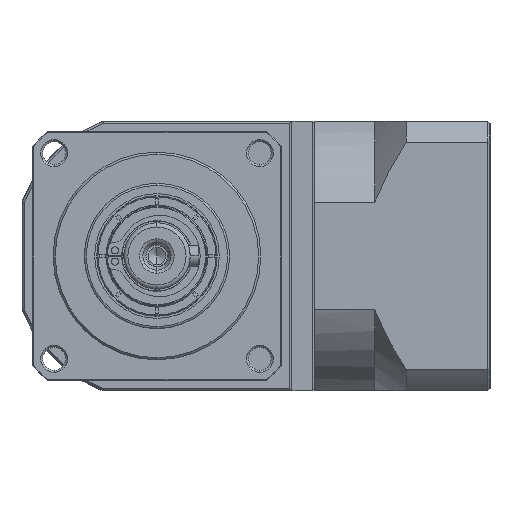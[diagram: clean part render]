
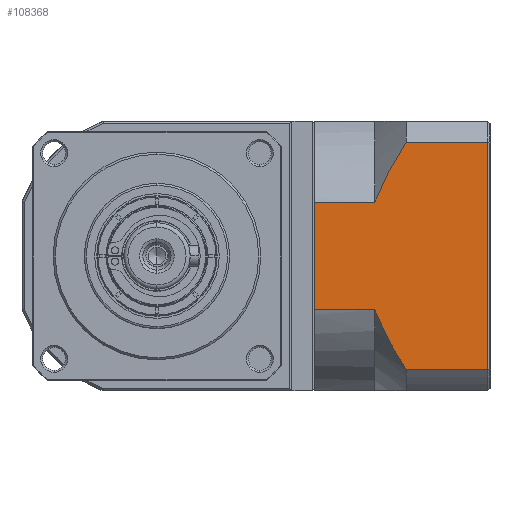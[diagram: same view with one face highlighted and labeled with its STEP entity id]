
A CAD part, left-side view. The second image highlights one B-rep face of the part: STEP entity #108368.
In plain terms, the highlighted planar face has unit normal (-1, 0, 0).
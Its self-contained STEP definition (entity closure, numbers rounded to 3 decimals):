
#5248 = B_SPLINE_CURVE_WITH_KNOTS ( 'NONE', 3,
 ( #55234, #129457, #42813, #67716, #154365, #80161, #6045, #92638, #18481, #105079 ),
 .UNSPECIFIED., .F., .F.,
 ( 4, 2, 2, 2, 4 ),
 ( 0.101, 0.103, 0.105, 0.109, 0.117 ),
 .UNSPECIFIED. ) ;
#5411 = VECTOR ( 'NONE', #45321, 1000. ) ;
#6045 = CARTESIAN_POINT ( 'NONE',  ( -16.223, -80.537, -137.2 ) ) ;
#7336 = CARTESIAN_POINT ( 'NONE',  ( -16.223, -77.791, -145.364 ) ) ;
#9704 = DIRECTION ( 'NONE',  ( 1., 0., 0. ) ) ;
#18481 = CARTESIAN_POINT ( 'NONE',  ( -16.223, -83.83, -143.095 ) ) ;
#18484 = FACE_OUTER_BOUND ( 'NONE', #99587, .T. ) ;
#19973 = CARTESIAN_POINT ( 'NONE',  ( -16.223, -85.291, -90.591 ) ) ;
#20911 = VERTEX_POINT ( 'NONE', #122552 ) ;
#25438 = CARTESIAN_POINT ( 'NONE',  ( -16.223, -82.458, -95.216 ) ) ;
#26752 = CARTESIAN_POINT ( 'NONE',  ( -16.223, -104.991, -150.478 ) ) ;
#33432 = CARTESIAN_POINT ( 'NONE',  ( -16.223, -77.791, -90.591 ) ) ;
#34030 = PLANE ( 'NONE',  #104028 ) ;
#36263 = VERTEX_POINT ( 'NONE', #19973 ) ;
#37776 = EDGE_CURVE ( 'NONE', #47898, #115737, #5248, .T. ) ;
#37871 = CARTESIAN_POINT ( 'NONE',  ( -16.223, -79.878, -99.997 ) ) ;
#41504 = CARTESIAN_POINT ( 'NONE',  ( -16.223, -104.991, -145.364 ) ) ;
#42128 = ORIENTED_EDGE ( 'NONE', *, *, #63865, .F. ) ;
#42577 = VECTOR ( 'NONE', #60832, 1000. ) ;
#42813 = CARTESIAN_POINT ( 'NONE',  ( -16.223, -78.282, -132.249 ) ) ;
#44585 = CARTESIAN_POINT ( 'NONE',  ( -16.223, -104.991, -90.591 ) ) ;
#45321 = DIRECTION ( 'NONE',  ( 0., -1., 0. ) ) ;
#47898 = VERTEX_POINT ( 'NONE', #104280 ) ;
#49545 = ORIENTED_EDGE ( 'NONE', *, *, #133336, .T. ) ;
#50292 = CARTESIAN_POINT ( 'NONE',  ( -16.223, -77.791, -104.987 ) ) ;
#55234 = CARTESIAN_POINT ( 'NONE',  ( -16.223, -77.791, -130.968 ) ) ;
#56225 = CARTESIAN_POINT ( 'NONE',  ( -16.223, -63.291, -104.987 ) ) ;
#57207 = ORIENTED_EDGE ( 'NONE', *, *, #78349, .F. ) ;
#58546 = VECTOR ( 'NONE', #64319, 1000. ) ;
#59552 = EDGE_CURVE ( 'NONE', #119585, #20911, #94296, .T. ) ;
#60832 = DIRECTION ( 'NONE',  ( 0., 1., 0. ) ) ;
#62140 = CARTESIAN_POINT ( 'NONE',  ( -16.223, -77.791, -104.987 ) ) ;
#62961 = ORIENTED_EDGE ( 'NONE', *, *, #139575, .T. ) ;
#63081 = LINE ( 'NONE', #7336, #96013 ) ;
#63704 = ORIENTED_EDGE ( 'NONE', *, *, #73071, .F. ) ;
#63865 = EDGE_CURVE ( 'NONE', #125389, #115737, #63081, .T. ) ;
#64319 = DIRECTION ( 'NONE',  ( 0., -1., 0. ) ) ;
#67716 = CARTESIAN_POINT ( 'NONE',  ( -16.223, -78.808, -133.51 ) ) ;
#68759 = ORIENTED_EDGE ( 'NONE', *, *, #59552, .T. ) ;
#71278 = VECTOR ( 'NONE', #150742, 1000. ) ;
#73071 = EDGE_CURVE ( 'NONE', #119585, #92568, #138028, .T. ) ;
#74711 = CARTESIAN_POINT ( 'NONE',  ( -16.223, -85.291, -90.591 ) ) ;
#78349 = EDGE_CURVE ( 'NONE', #36263, #142941, #100270, .T. ) ;
#80161 = CARTESIAN_POINT ( 'NONE',  ( -16.223, -79.932, -135.988 ) ) ;
#83572 = DIRECTION ( 'NONE',  ( 0., 1., 0. ) ) ;
#83840 = CARTESIAN_POINT ( 'NONE',  ( -16.223, -105.491, -150.478 ) ) ;
#85170 = CARTESIAN_POINT ( 'NONE',  ( -16.223, -63.291, -150.478 ) ) ;
#86004 = ORIENTED_EDGE ( 'NONE', *, *, #104197, .F. ) ;
#86119 = CARTESIAN_POINT ( 'NONE',  ( -16.223, -84.558, -91.73 ) ) ;
#92568 = VERTEX_POINT ( 'NONE', #105407 ) ;
#92638 = CARTESIAN_POINT ( 'NONE',  ( -16.223, -82.442, -140.781 ) ) ;
#94296 = LINE ( 'NONE', #85170, #123319 ) ;
#96013 = VECTOR ( 'NONE', #83572, 1000. ) ;
#96292 = DIRECTION ( 'NONE',  ( 0., 1., 0. ) ) ;
#96934 = ORIENTED_EDGE ( 'NONE', *, *, #37776, .T. ) ;
#99587 = EDGE_LOOP ( 'NONE', ( #42128, #49545, #57207, #62961, #63704, #68759, #86004, #96934 ) ) ;
#99608 = CARTESIAN_POINT ( 'NONE',  ( -16.223, -83.843, -92.881 ) ) ;
#100270 = LINE ( 'NONE', #33432, #5411 ) ;
#101223 = CARTESIAN_POINT ( 'NONE',  ( -16.223, -85.291, -145.364 ) ) ;
#104028 = AXIS2_PLACEMENT_3D ( 'NONE', #83840, #9704, #96292 ) ;
#104197 = EDGE_CURVE ( 'NONE', #47898, #20911, #108440, .T. ) ;
#104280 = CARTESIAN_POINT ( 'NONE',  ( -16.223, -77.791, -130.968 ) ) ;
#104283 = LINE ( 'NONE', #26752, #71278 ) ;
#105079 = CARTESIAN_POINT ( 'NONE',  ( -16.223, -85.291, -145.364 ) ) ;
#105407 = CARTESIAN_POINT ( 'NONE',  ( -16.223, -77.791, -104.987 ) ) ;
#108368 = ADVANCED_FACE ( 'NONE', ( #18484 ), #34030, .F. ) ;
#108440 = LINE ( 'NONE', #135025, #42577 ) ;
#112078 = CARTESIAN_POINT ( 'NONE',  ( -16.223, -81.788, -96.402 ) ) ;
#115737 = VERTEX_POINT ( 'NONE', #101223 ) ;
#119585 = VERTEX_POINT ( 'NONE', #56225 ) ;
#122552 = CARTESIAN_POINT ( 'NONE',  ( -16.223, -63.291, -130.968 ) ) ;
#123319 = VECTOR ( 'NONE', #159350, 1000. ) ;
#124536 = CARTESIAN_POINT ( 'NONE',  ( -16.223, -78.733, -102.449 ) ) ;
#125389 = VERTEX_POINT ( 'NONE', #41504 ) ;
#129457 = CARTESIAN_POINT ( 'NONE',  ( -16.223, -78.03, -131.61 ) ) ;
#133336 = EDGE_CURVE ( 'NONE', #125389, #142941, #104283, .T. ) ;
#135025 = CARTESIAN_POINT ( 'NONE',  ( -16.223, -77.791, -130.968 ) ) ;
#138028 = LINE ( 'NONE', #62140, #58546 ) ;
#139575 = EDGE_CURVE ( 'NONE', #36263, #92568, #159278, .T. ) ;
#142941 = VERTEX_POINT ( 'NONE', #44585 ) ;
#150742 = DIRECTION ( 'NONE',  ( 0., 0., 1. ) ) ;
#154365 = CARTESIAN_POINT ( 'NONE',  ( -16.223, -79.082, -134.134 ) ) ;
#159278 = B_SPLINE_CURVE_WITH_KNOTS ( 'NONE', 3,
 ( #74711, #86119, #99608, #25438, #112078, #37871, #124536, #50292 ),
 .UNSPECIFIED., .F., .F.,
 ( 4, 2, 2, 4 ),
 ( 0.058, 0.062, 0.066, 0.074 ),
 .UNSPECIFIED. ) ;
#159350 = DIRECTION ( 'NONE',  ( 0., 0., -1. ) ) ;
